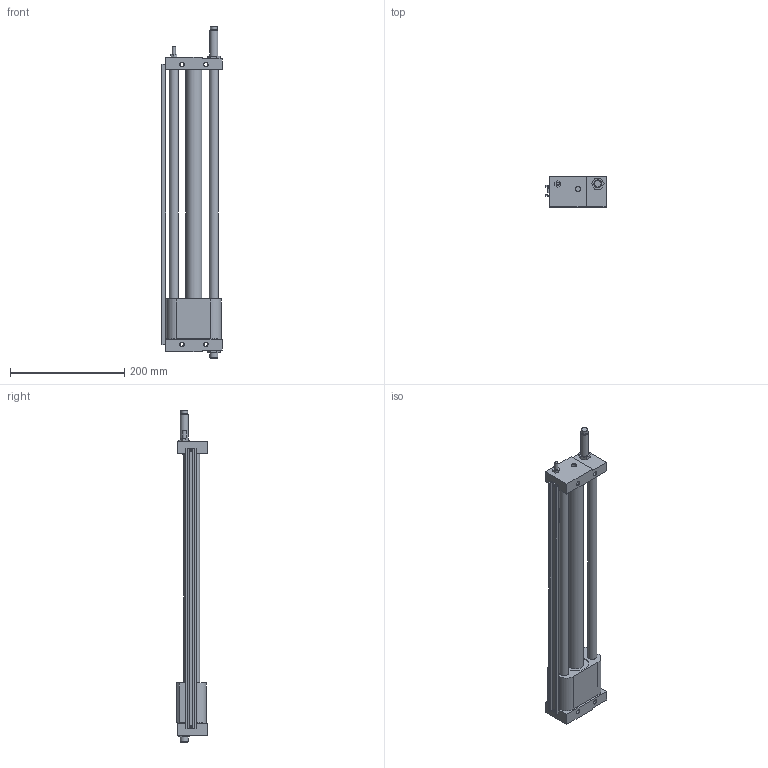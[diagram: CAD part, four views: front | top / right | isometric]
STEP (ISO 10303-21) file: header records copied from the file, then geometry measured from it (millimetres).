
FILE_DESCRIPTION( ( 'STEP AP214' ), '1' );
FILE_NAME( 'C:/Users/EMC02301/Desktop/111/ESWT25X400-S-BS.stp', '2026-07-29T05:43:30', ( 'License CC BY-ND 4.0' ), ( 'CADENAS' ), ' ', 'PARTsolutions', ' ' );
FILE_SCHEMA( ( 'AUTOMOTIVE_DESIGN { 1 0 10303 214 1 1 1 1 }' ) );
Length unit declared in the file: millimetre
Products named in the file (4): ESWT25X400-S-BS()(0); _ESWT25X400-S-BS(0)()_dummy; _ESWT25X400-S-BS(0)()_ROD; _ESWT25X400(0)()_BODY
Assembly tree (3 placements, depth 2):
  ESWT25X400-S-BS()(0)
    _ESWT25X400-S-BS(0)()_dummy
    _ESWT25X400-S-BS(0)()_ROD
    _ESWT25X400(0)()_BODY
Bounding box: 105.5 x 54 x 581.7 mm (x, y, z)
Volume: 977410.4 mm3; surface area: 203679.9 mm2
Topology: 2 solids, 5 shells, 184 faces, 399 edges, 258 vertices
Faces by surface type: plane 102, cylinder 47, cone 33, torus 2
Full cylindrical faces by diameter (mm): 3.5 x2, 4 x1, 4.134 x4, 4.917 x5, 5.8 x2, 6 x2, 6.647 x4, 7 x4, 8.566 x2, 9.6 x2, 11 x4, 11.8 x1, 14 x3, 16 x4, 27.8 x2, 45 x2
Entity records: 6081 total; most frequent: DIRECTION 813, CARTESIAN_POINT 742, ORIENTED_EDGE 616, EDGE_LOOP 319, AXIS2_PLACEMENT_3D 317, EDGE_CURVE 308, VERTEX_POINT 245, FACE_OUTER_BOUND 230
